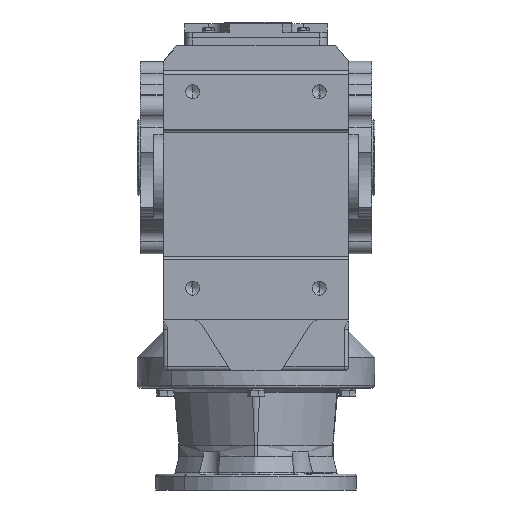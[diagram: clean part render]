
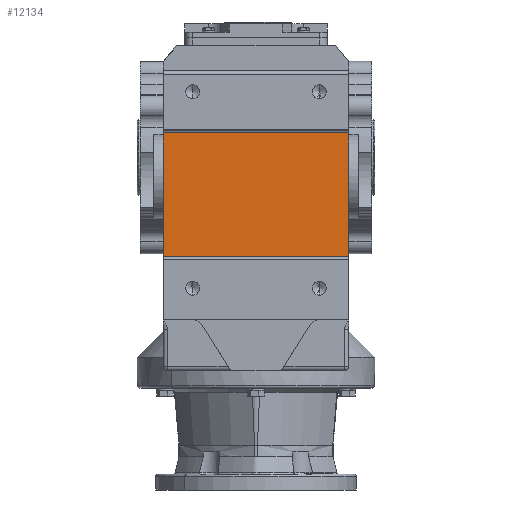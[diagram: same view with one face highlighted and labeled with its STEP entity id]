
A CAD part, front view. The second image highlights one B-rep face of the part: STEP entity #12134.
In plain terms, the highlighted planar face has unit normal (0, -1, 0).
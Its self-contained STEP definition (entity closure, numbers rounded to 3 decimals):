
#2043 = DIRECTION ( 'NONE',  ( 1., 0., 0. ) ) ;
#2056 = CARTESIAN_POINT ( 'NONE',  ( -145., -260., 31. ) ) ;
#2064 = DIRECTION ( 'NONE',  ( 0., 0., 1. ) ) ;
#2072 = CARTESIAN_POINT ( 'NONE',  ( -117., -260., 31. ) ) ;
#2077 = CARTESIAN_POINT ( 'NONE',  ( 117., -260., 31. ) ) ;
#2085 = CARTESIAN_POINT ( 'NONE',  ( -145., -260., -125. ) ) ;
#2088 = DIRECTION ( 'NONE',  ( 1., 0., 0. ) ) ;
#2090 = DIRECTION ( 'NONE',  ( 0., 0., 1. ) ) ;
#2827 = LINE ( 'NONE', #2056, #2829 ) ;
#2828 = LINE ( 'NONE', #2077, #2836 ) ;
#2829 = VECTOR ( 'NONE', #2043, 1000. ) ;
#2830 = LINE ( 'NONE', #2072, #2832 ) ;
#2831 = LINE ( 'NONE', #2085, #2834 ) ;
#2832 = VECTOR ( 'NONE', #2064, 1000. ) ;
#2834 = VECTOR ( 'NONE', #2088, 1000. ) ;
#2836 = VECTOR ( 'NONE', #2090, 1000. ) ;
#12134 = ADVANCED_FACE ( 'NONE', ( #41639 ), #37748, .T. ) ;
#13274 = AXIS2_PLACEMENT_3D ( 'NONE', #37743, #37751, #37752 ) ;
#15241 = CARTESIAN_POINT ( 'NONE',  ( -117., -260., 31. ) ) ;
#15259 = CARTESIAN_POINT ( 'NONE',  ( -117., -260., -125. ) ) ;
#15264 = CARTESIAN_POINT ( 'NONE',  ( 117., -260., 31. ) ) ;
#15267 = CARTESIAN_POINT ( 'NONE',  ( 117., -260., -125. ) ) ;
#16195 = ORIENTED_EDGE ( 'NONE', *, *, #39346, .F. ) ;
#16196 = ORIENTED_EDGE ( 'NONE', *, *, #39348, .F. ) ;
#16197 = ORIENTED_EDGE ( 'NONE', *, *, #39349, .T. ) ;
#16198 = ORIENTED_EDGE ( 'NONE', *, *, #39350, .T. ) ;
#25274 = VERTEX_POINT ( 'NONE', #15241 ) ;
#25286 = VERTEX_POINT ( 'NONE', #15259 ) ;
#25289 = VERTEX_POINT ( 'NONE', #15264 ) ;
#25291 = VERTEX_POINT ( 'NONE', #15267 ) ;
#35084 = EDGE_LOOP ( 'NONE', ( #16195, #16196, #16197, #16198 ) ) ;
#37743 = CARTESIAN_POINT ( 'NONE',  ( -145., -260., 31. ) ) ;
#37748 = PLANE ( 'NONE',  #13274 ) ;
#37751 = DIRECTION ( 'NONE',  ( 0., -1., 0. ) ) ;
#37752 = DIRECTION ( 'NONE',  ( 0., 0., -1. ) ) ;
#39346 = EDGE_CURVE ( 'NONE', #25274, #25289, #2827, .T. ) ;
#39348 = EDGE_CURVE ( 'NONE', #25286, #25274, #2830, .T. ) ;
#39349 = EDGE_CURVE ( 'NONE', #25286, #25291, #2831, .T. ) ;
#39350 = EDGE_CURVE ( 'NONE', #25291, #25289, #2828, .T. ) ;
#41639 = FACE_OUTER_BOUND ( 'NONE', #35084, .T. ) ;
